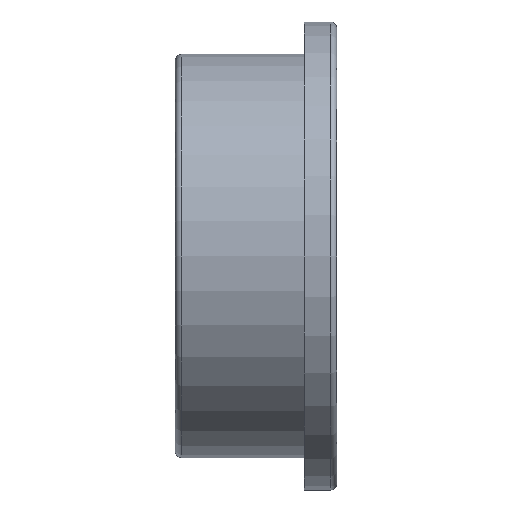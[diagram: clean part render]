
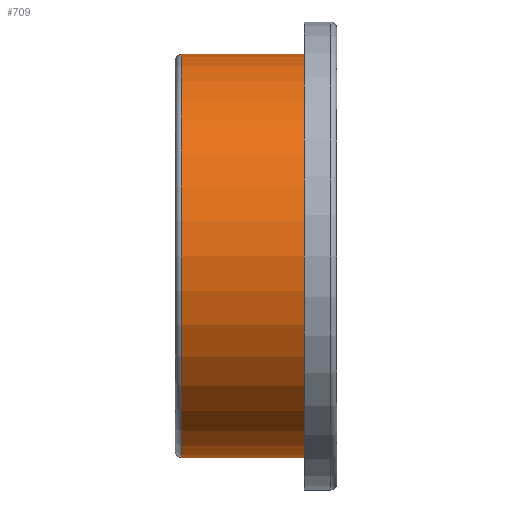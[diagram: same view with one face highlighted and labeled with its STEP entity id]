
A CAD part, front view. The second image highlights one B-rep face of the part: STEP entity #709.
In plain terms, the highlighted cylindrical face has radius 5 mm (diameter 10 mm), a full revolution.
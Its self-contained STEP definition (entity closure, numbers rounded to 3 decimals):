
#153 = TOROIDAL_SURFACE('',#154,4.85,0.15);
#154 = AXIS2_PLACEMENT_3D('',#155,#156,#157);
#155 = CARTESIAN_POINT('',(0.15,0.,0.));
#156 = DIRECTION('',(1.,0.,-0.));
#157 = DIRECTION('',(-0.,0.,-1.));
#633 = PLANE('',#634);
#634 = AXIS2_PLACEMENT_3D('',#635,#636,#637);
#635 = CARTESIAN_POINT('',(3.2,5.8,0.));
#636 = DIRECTION('',(-1.,0.,0.));
#637 = DIRECTION('',(0.,0.,1.));
#674 = EDGE_CURVE('',#675,#675,#677,.T.);
#675 = VERTEX_POINT('',#676);
#676 = CARTESIAN_POINT('',(3.2,0.,-5.));
#677 = SURFACE_CURVE('',#678,(#683,#694),.PCURVE_S1.);
#678 = CIRCLE('',#679,5.);
#679 = AXIS2_PLACEMENT_3D('',#680,#681,#682);
#680 = CARTESIAN_POINT('',(3.2,0.,0.));
#681 = DIRECTION('',(1.,0.,-0.));
#682 = DIRECTION('',(-0.,0.,-1.));
#683 = PCURVE('',#633,#684);
#684 = DEFINITIONAL_REPRESENTATION('',(#685),#693);
#685 = ( BOUNDED_CURVE() B_SPLINE_CURVE(2,(#686,#687,#688,#689,#690,#691
,#692),.UNSPECIFIED.,.T.,.F.) B_SPLINE_CURVE_WITH_KNOTS((1,2,2,2,2,1),(
    -2.094,0.,2.094,4.189,6.283,
8.378),.UNSPECIFIED.) CURVE() GEOMETRIC_REPRESENTATION_ITEM() 
RATIONAL_B_SPLINE_CURVE((1.,0.5,1.,0.5,1.,0.5,1.)) REPRESENTATION_ITEM(
  '') );
#686 = CARTESIAN_POINT('',(-5.,-5.8));
#687 = CARTESIAN_POINT('',(-5.,2.86));
#688 = CARTESIAN_POINT('',(2.5,-1.47));
#689 = CARTESIAN_POINT('',(10.,-5.8));
#690 = CARTESIAN_POINT('',(2.5,-10.13));
#691 = CARTESIAN_POINT('',(-5.,-14.46));
#692 = CARTESIAN_POINT('',(-5.,-5.8));
#693 = ( GEOMETRIC_REPRESENTATION_CONTEXT(2) 
PARAMETRIC_REPRESENTATION_CONTEXT() REPRESENTATION_CONTEXT('2D SPACE',''
  ) );
#694 = PCURVE('',#695,#700);
#695 = CYLINDRICAL_SURFACE('',#696,5.);
#696 = AXIS2_PLACEMENT_3D('',#697,#698,#699);
#697 = CARTESIAN_POINT('',(4.,0.,0.));
#698 = DIRECTION('',(-1.,-0.,0.));
#699 = DIRECTION('',(-0.,0.,-1.));
#700 = DEFINITIONAL_REPRESENTATION('',(#701),#705);
#701 = LINE('',#702,#703);
#702 = CARTESIAN_POINT('',(6.283,0.8));
#703 = VECTOR('',#704,1.);
#704 = DIRECTION('',(-1.,0.));
#705 = ( GEOMETRIC_REPRESENTATION_CONTEXT(2) 
PARAMETRIC_REPRESENTATION_CONTEXT() REPRESENTATION_CONTEXT('2D SPACE',''
  ) );
#709 = ADVANCED_FACE('',(#710),#695,.T.);
#710 = FACE_BOUND('',#711,.T.);
#711 = EDGE_LOOP('',(#712,#736,#756,#757));
#712 = ORIENTED_EDGE('',*,*,#713,.T.);
#713 = EDGE_CURVE('',#714,#714,#716,.T.);
#714 = VERTEX_POINT('',#715);
#715 = CARTESIAN_POINT('',(0.15,0.,-5.));
#716 = SURFACE_CURVE('',#717,(#722,#729),.PCURVE_S1.);
#717 = CIRCLE('',#718,5.);
#718 = AXIS2_PLACEMENT_3D('',#719,#720,#721);
#719 = CARTESIAN_POINT('',(0.15,0.,0.));
#720 = DIRECTION('',(1.,0.,-0.));
#721 = DIRECTION('',(-0.,0.,-1.));
#722 = PCURVE('',#695,#723);
#723 = DEFINITIONAL_REPRESENTATION('',(#724),#728);
#724 = LINE('',#725,#726);
#725 = CARTESIAN_POINT('',(6.283,3.85));
#726 = VECTOR('',#727,1.);
#727 = DIRECTION('',(-1.,0.));
#728 = ( GEOMETRIC_REPRESENTATION_CONTEXT(2) 
PARAMETRIC_REPRESENTATION_CONTEXT() REPRESENTATION_CONTEXT('2D SPACE',''
  ) );
#729 = PCURVE('',#153,#730);
#730 = DEFINITIONAL_REPRESENTATION('',(#731),#735);
#731 = LINE('',#732,#733);
#732 = CARTESIAN_POINT('',(0.,6.283));
#733 = VECTOR('',#734,1.);
#734 = DIRECTION('',(1.,0.));
#735 = ( GEOMETRIC_REPRESENTATION_CONTEXT(2) 
PARAMETRIC_REPRESENTATION_CONTEXT() REPRESENTATION_CONTEXT('2D SPACE',''
  ) );
#736 = ORIENTED_EDGE('',*,*,#737,.F.);
#737 = EDGE_CURVE('',#675,#714,#738,.T.);
#738 = SEAM_CURVE('',#739,(#742,#749),.PCURVE_S1.);
#739 = B_SPLINE_CURVE_WITH_KNOTS('',1,(#740,#741),.UNSPECIFIED.,.F.,.F.,
  (2,2),(0.8,3.85),.PIECEWISE_BEZIER_KNOTS.);
#740 = CARTESIAN_POINT('',(3.2,0.,-5.));
#741 = CARTESIAN_POINT('',(0.15,0.,-5.));
#742 = PCURVE('',#695,#743);
#743 = DEFINITIONAL_REPRESENTATION('',(#744),#748);
#744 = LINE('',#745,#746);
#745 = CARTESIAN_POINT('',(0.,0.));
#746 = VECTOR('',#747,1.);
#747 = DIRECTION('',(0.,1.));
#748 = ( GEOMETRIC_REPRESENTATION_CONTEXT(2) 
PARAMETRIC_REPRESENTATION_CONTEXT() REPRESENTATION_CONTEXT('2D SPACE',''
  ) );
#749 = PCURVE('',#695,#750);
#750 = DEFINITIONAL_REPRESENTATION('',(#751),#755);
#751 = LINE('',#752,#753);
#752 = CARTESIAN_POINT('',(6.283,0.));
#753 = VECTOR('',#754,1.);
#754 = DIRECTION('',(0.,1.));
#755 = ( GEOMETRIC_REPRESENTATION_CONTEXT(2) 
PARAMETRIC_REPRESENTATION_CONTEXT() REPRESENTATION_CONTEXT('2D SPACE',''
  ) );
#756 = ORIENTED_EDGE('',*,*,#674,.F.);
#757 = ORIENTED_EDGE('',*,*,#737,.T.);
